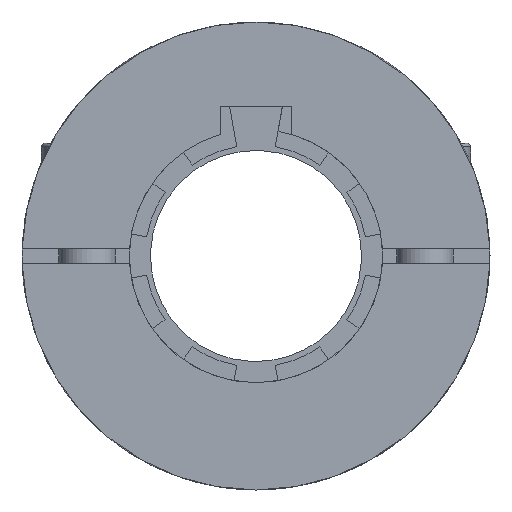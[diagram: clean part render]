
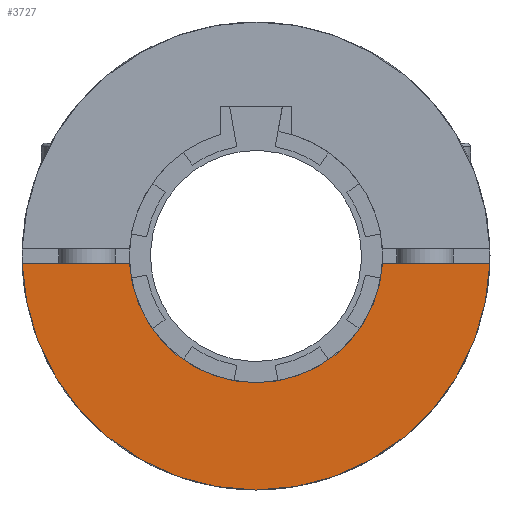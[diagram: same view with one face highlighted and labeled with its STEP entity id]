
A CAD part, left-side view. The second image highlights one B-rep face of the part: STEP entity #3727.
In plain terms, the highlighted planar face has unit normal (-1, 0, 0).
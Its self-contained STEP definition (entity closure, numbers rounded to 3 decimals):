
#186=PLANE('',#4162);
#369=FACE_OUTER_BOUND('',#587,.T.);
#587=EDGE_LOOP('',(#3213,#3214,#3215,#3216));
#905=LINE('',#6397,#1234);
#908=LINE('',#6407,#1237);
#1234=VECTOR('',#5107,1000.);
#1237=VECTOR('',#5116,1000.);
#1457=CIRCLE('',#4137,18.);
#1470=CIRCLE('',#4163,33.25);
#1772=VERTEX_POINT('',#6320);
#1773=VERTEX_POINT('',#6321);
#1798=VERTEX_POINT('',#6396);
#1802=VERTEX_POINT('',#6406);
#2256=EDGE_CURVE('',#1772,#1773,#1457,.T.);
#2294=EDGE_CURVE('',#1772,#1798,#905,.T.);
#2299=EDGE_CURVE('',#1802,#1773,#908,.T.);
#2300=EDGE_CURVE('',#1802,#1798,#1470,.T.);
#3213=ORIENTED_EDGE('',*,*,#2256,.T.);
#3214=ORIENTED_EDGE('',*,*,#2299,.F.);
#3215=ORIENTED_EDGE('',*,*,#2300,.T.);
#3216=ORIENTED_EDGE('',*,*,#2294,.F.);
#3727=ADVANCED_FACE('',(#369),#186,.F.);
#4137=AXIS2_PLACEMENT_3D('',#6322,#5034,#5035);
#4162=AXIS2_PLACEMENT_3D('',#6405,#5114,#5115);
#4163=AXIS2_PLACEMENT_3D('',#6408,#5117,#5118);
#5034=DIRECTION('center_axis',(1.,0.,0.));
#5035=DIRECTION('ref_axis',(0.,0.,1.));
#5107=DIRECTION('',(0.,-1.,0.));
#5114=DIRECTION('center_axis',(1.,0.,0.));
#5115=DIRECTION('ref_axis',(0.,0.,-1.));
#5116=DIRECTION('',(0.,-1.,0.));
#5117=DIRECTION('center_axis',(-1.,0.,0.));
#5118=DIRECTION('ref_axis',(0.,-1.,0.));
#6320=CARTESIAN_POINT('',(0.,-17.972,-1.));
#6321=CARTESIAN_POINT('',(0.,17.972,-1.));
#6322=CARTESIAN_POINT('Origin',(0.,0.,0.));
#6396=CARTESIAN_POINT('',(0.,-33.235,-1.));
#6397=CARTESIAN_POINT('',(0.,38.941,-1.));
#6405=CARTESIAN_POINT('Origin',(0.,0.,33.25));
#6406=CARTESIAN_POINT('',(0.,33.235,-1.));
#6407=CARTESIAN_POINT('',(0.,38.941,-1.));
#6408=CARTESIAN_POINT('Origin',(0.,0.,0.));
